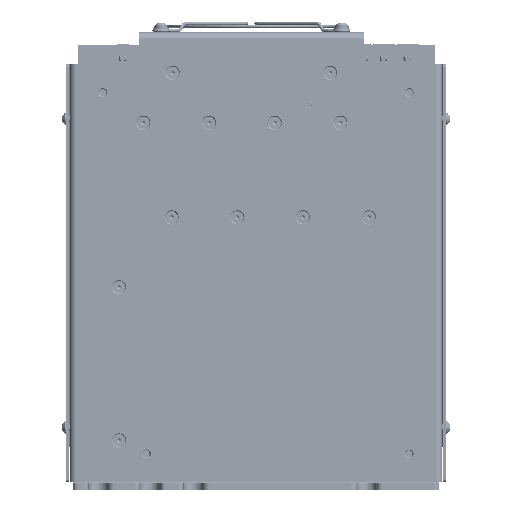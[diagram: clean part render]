
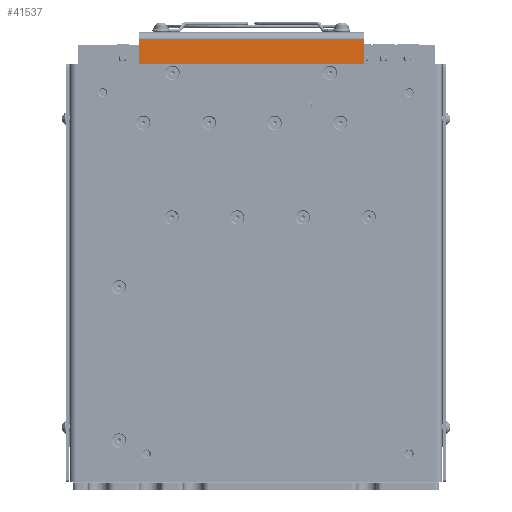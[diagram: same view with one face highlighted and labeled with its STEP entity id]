
A CAD part, front view. The second image highlights one B-rep face of the part: STEP entity #41537.
In plain terms, the highlighted planar face has unit normal (0, -1, 0).
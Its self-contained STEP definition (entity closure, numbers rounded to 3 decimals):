
#4959 = AXIS2_PLACEMENT_3D ( 'NONE', #94828, #560928, #112233 ) ;
#5917 = CARTESIAN_POINT ( 'NONE',  ( -36., -49., -18.5 ) ) ;
#6641 = DIRECTION ( 'NONE',  ( 0., -1., 0. ) ) ;
#8249 = ORIENTED_EDGE ( 'NONE', *, *, #84323, .T. ) ;
#12967 = ORIENTED_EDGE ( 'NONE', *, *, #416957, .T. ) ;
#15792 = CARTESIAN_POINT ( 'NONE',  ( 62.5, -49., -24. ) ) ;
#17728 = DIRECTION ( 'NONE',  ( 0., 1., 0. ) ) ;
#17759 = CIRCLE ( 'NONE', #130849, 3. ) ;
#20625 = FACE_BOUND ( 'NONE', #417133, .T. ) ;
#26900 = CARTESIAN_POINT ( 'NONE',  ( 48.5, -49., -24. ) ) ;
#41537 = ADVANCED_FACE ( 'NONE', ( #165312, #20625, #472275 ), #333680, .F. ) ;
#47942 = VERTEX_POINT ( 'NONE', #583579 ) ;
#65533 = VECTOR ( 'NONE', #531062, 1000. ) ;
#71859 = VERTEX_POINT ( 'NONE', #100956 ) ;
#76860 = CARTESIAN_POINT ( 'NONE',  ( -51.5, -49., -24. ) ) ;
#84323 = EDGE_CURVE ( 'NONE', #47942, #479990, #93675, .T. ) ;
#85639 = VERTEX_POINT ( 'NONE', #298740 ) ;
#87365 = LINE ( 'NONE', #353060, #228328 ) ;
#93675 = CIRCLE ( 'NONE', #282467, 2.125 ) ;
#94828 = CARTESIAN_POINT ( 'NONE',  ( 36., -49., -18.5 ) ) ;
#100956 = CARTESIAN_POINT ( 'NONE',  ( -51.5, -49., -3. ) ) ;
#101240 = CARTESIAN_POINT ( 'NONE',  ( 48.5, -49., -21. ) ) ;
#105143 = DIRECTION ( 'NONE',  ( 0., -1., 0. ) ) ;
#108293 = CIRCLE ( 'NONE', #484955, 2.125 ) ;
#112233 = DIRECTION ( 'NONE',  ( 0., 0., 1. ) ) ;
#130849 = AXIS2_PLACEMENT_3D ( 'NONE', #373619, #105143, #509395 ) ;
#140175 = EDGE_CURVE ( 'NONE', #313240, #562301, #236388, .T. ) ;
#145455 = CIRCLE ( 'NONE', #4959, 2.125 ) ;
#154616 = DIRECTION ( 'NONE',  ( -1., 0., 0. ) ) ;
#165312 = FACE_BOUND ( 'NONE', #567663, .T. ) ;
#169768 = AXIS2_PLACEMENT_3D ( 'NONE', #389438, #17728, #342378 ) ;
#179893 = VERTEX_POINT ( 'NONE', #247744 ) ;
#196554 = ORIENTED_EDGE ( 'NONE', *, *, #398919, .F. ) ;
#228328 = VECTOR ( 'NONE', #583239, 1000. ) ;
#231077 = EDGE_CURVE ( 'NONE', #479990, #47942, #108293, .T. ) ;
#234662 = CARTESIAN_POINT ( 'NONE',  ( -36., -49., -16.375 ) ) ;
#236388 = CIRCLE ( 'NONE', #264510, 2.125 ) ;
#239368 = ORIENTED_EDGE ( 'NONE', *, *, #483456, .F. ) ;
#240321 = LINE ( 'NONE', #15792, #456168 ) ;
#244005 = DIRECTION ( 'NONE',  ( 0., 0., 1. ) ) ;
#247744 = CARTESIAN_POINT ( 'NONE',  ( -48.5, -49., -24. ) ) ;
#254075 = DIRECTION ( 'NONE',  ( 0., 0., 1. ) ) ;
#255353 = ORIENTED_EDGE ( 'NONE', *, *, #140175, .T. ) ;
#255602 = CARTESIAN_POINT ( 'NONE',  ( 36., -49., -18.5 ) ) ;
#264510 = AXIS2_PLACEMENT_3D ( 'NONE', #255602, #338350, #244005 ) ;
#277424 = EDGE_CURVE ( 'NONE', #431848, #522082, #319397, .T. ) ;
#281246 = DIRECTION ( 'NONE',  ( 0., 0., 1. ) ) ;
#281491 = AXIS2_PLACEMENT_3D ( 'NONE', #101240, #6641, #281246 ) ;
#282467 = AXIS2_PLACEMENT_3D ( 'NONE', #5917, #540401, #498938 ) ;
#298020 = LINE ( 'NONE', #578271, #65533 ) ;
#298740 = CARTESIAN_POINT ( 'NONE',  ( -51.5, -49., -21. ) ) ;
#301827 = CARTESIAN_POINT ( 'NONE',  ( 51.5, -49., -21. ) ) ;
#313240 = VERTEX_POINT ( 'NONE', #495662 ) ;
#319397 = CIRCLE ( 'NONE', #281491, 3. ) ;
#333680 = PLANE ( 'NONE',  #169768 ) ;
#338350 = DIRECTION ( 'NONE',  ( 0., 1., 0. ) ) ;
#342378 = DIRECTION ( 'NONE',  ( 0., 0., 1. ) ) ;
#344327 = EDGE_CURVE ( 'NONE', #562301, #313240, #145455, .T. ) ;
#351844 = ORIENTED_EDGE ( 'NONE', *, *, #277424, .T. ) ;
#353060 = CARTESIAN_POINT ( 'NONE',  ( 51.5, -49., -24. ) ) ;
#363505 = ORIENTED_EDGE ( 'NONE', *, *, #445331, .T. ) ;
#373619 = CARTESIAN_POINT ( 'NONE',  ( -48.5, -49., -21. ) ) ;
#375681 = CARTESIAN_POINT ( 'NONE',  ( -36., -49., -18.5 ) ) ;
#376712 = ORIENTED_EDGE ( 'NONE', *, *, #344327, .T. ) ;
#386773 = LINE ( 'NONE', #76860, #442197 ) ;
#389438 = CARTESIAN_POINT ( 'NONE',  ( 62.5, -49., 0. ) ) ;
#398919 = EDGE_CURVE ( 'NONE', #431848, #179893, #240321, .T. ) ;
#410354 = VERTEX_POINT ( 'NONE', #579236 ) ;
#416957 = EDGE_CURVE ( 'NONE', #410354, #71859, #298020, .T. ) ;
#417133 = EDGE_LOOP ( 'NONE', ( #255353, #376712 ) ) ;
#422078 = ORIENTED_EDGE ( 'NONE', *, *, #460210, .T. ) ;
#431848 = VERTEX_POINT ( 'NONE', #26900 ) ;
#437680 = EDGE_LOOP ( 'NONE', ( #239368, #363505, #196554, #351844, #422078, #12967 ) ) ;
#442197 = VECTOR ( 'NONE', #254075, 1000. ) ;
#445331 = EDGE_CURVE ( 'NONE', #85639, #179893, #17759, .T. ) ;
#456168 = VECTOR ( 'NONE', #154616, 1000. ) ;
#460210 = EDGE_CURVE ( 'NONE', #522082, #410354, #87365, .T. ) ;
#472275 = FACE_OUTER_BOUND ( 'NONE', #437680, .T. ) ;
#479990 = VERTEX_POINT ( 'NONE', #234662 ) ;
#483456 = EDGE_CURVE ( 'NONE', #85639, #71859, #386773, .T. ) ;
#484955 = AXIS2_PLACEMENT_3D ( 'NONE', #375681, #555847, #511450 ) ;
#495662 = CARTESIAN_POINT ( 'NONE',  ( 36., -49., -16.375 ) ) ;
#498938 = DIRECTION ( 'NONE',  ( 0., 0., 1. ) ) ;
#509395 = DIRECTION ( 'NONE',  ( 0., 0., 1. ) ) ;
#511450 = DIRECTION ( 'NONE',  ( 0., 0., 1. ) ) ;
#522082 = VERTEX_POINT ( 'NONE', #301827 ) ;
#531062 = DIRECTION ( 'NONE',  ( -1., 0., 0. ) ) ;
#540401 = DIRECTION ( 'NONE',  ( 0., 1., 0. ) ) ;
#555847 = DIRECTION ( 'NONE',  ( 0., 1., 0. ) ) ;
#560928 = DIRECTION ( 'NONE',  ( 0., 1., 0. ) ) ;
#562301 = VERTEX_POINT ( 'NONE', #583392 ) ;
#567663 = EDGE_LOOP ( 'NONE', ( #568782, #8249 ) ) ;
#568782 = ORIENTED_EDGE ( 'NONE', *, *, #231077, .T. ) ;
#578271 = CARTESIAN_POINT ( 'NONE',  ( 62.5, -49., -3. ) ) ;
#579236 = CARTESIAN_POINT ( 'NONE',  ( 51.5, -49., -3. ) ) ;
#583239 = DIRECTION ( 'NONE',  ( 0., 0., 1. ) ) ;
#583392 = CARTESIAN_POINT ( 'NONE',  ( 36., -49., -20.625 ) ) ;
#583579 = CARTESIAN_POINT ( 'NONE',  ( -36., -49., -20.625 ) ) ;
